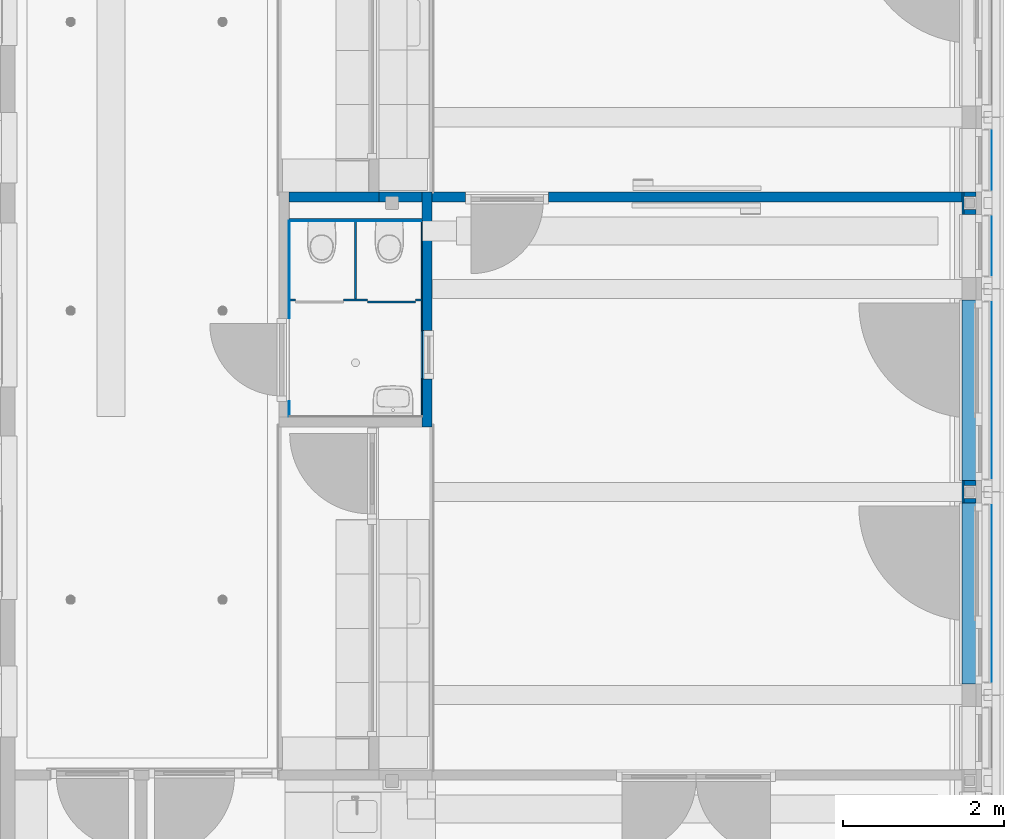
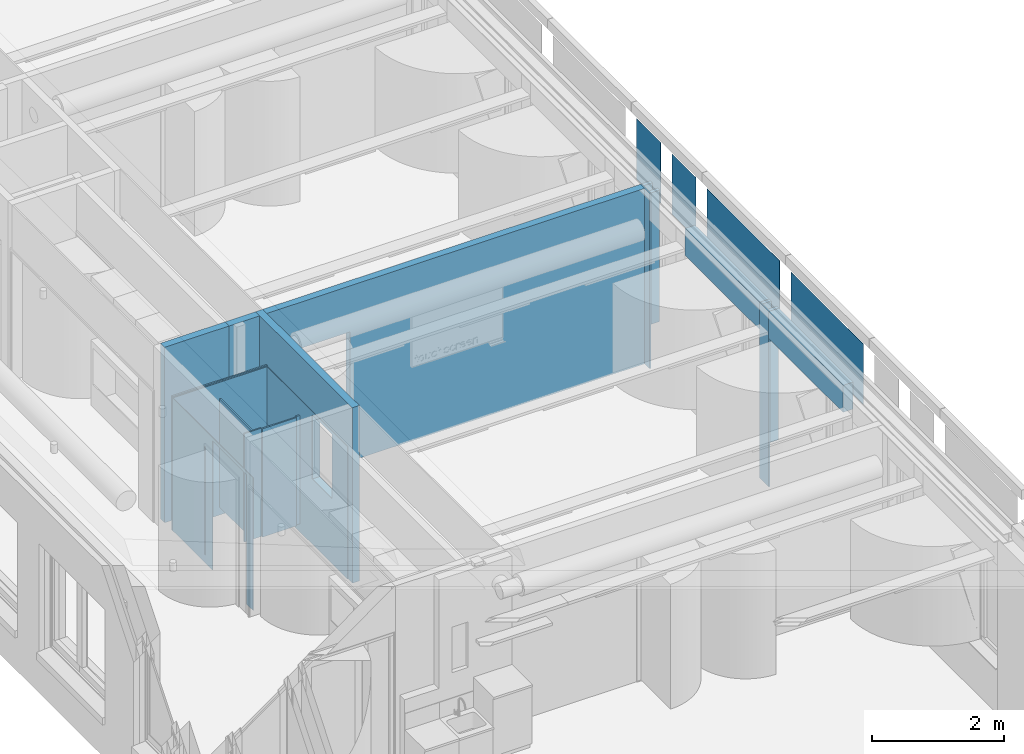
# One storey, part 35 of 128: 25 walls, 4 openings.
"""IFC2X3 building model written with IfcOpenShell, lengths in millimetres."""

from ifc_helpers import new_model, entity, si_unit, converted_unit, derived_unit, direction, frame, frame_2d, origin, origin_2d_with_axis, place, context, subcontext, project, spatial, rectangle, extrude, material, layer, layer_set, layer_usage, type_object, element, save


model = new_model("IFC2X3")

# Units and contexts
model_context = context("Model", 3, precision=0.01, world=origin(), true_north=direction((6.123031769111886e-17, 1.0)))
body_context = subcontext(model_context, "Body", "Model", "MODEL_VIEW")
ifc_project = project(units=[si_unit("LENGTHUNIT", "METRE", prefix="MILLI"), si_unit("AREAUNIT", "SQUARE_METRE"), si_unit("VOLUMEUNIT", "CUBIC_METRE"), converted_unit("PLANEANGLEUNIT", "DEGREE", entity("IfcRatioMeasure", 0.017453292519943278), si_unit("PLANEANGLEUNIT", "RADIAN"), dimensions=[0, 0, 0, 0, 0, 0, 0]), si_unit("MASSUNIT", "GRAM", prefix="KILO"), derived_unit("MASSDENSITYUNIT", [(si_unit("MASSUNIT", "GRAM", prefix="KILO"), 1), (si_unit("LENGTHUNIT", "METRE"), -3)]), derived_unit("IONCONCENTRATIONUNIT", [(si_unit("MASSUNIT", "GRAM", prefix="KILO"), 1), (si_unit("LENGTHUNIT", "METRE"), -3)]), derived_unit("MOMENTOFINERTIAUNIT", [(si_unit("LENGTHUNIT", "METRE"), 4)]), si_unit("TIMEUNIT", "SECOND"), si_unit("FREQUENCYUNIT", "HERTZ"), si_unit("THERMODYNAMICTEMPERATUREUNIT", "DEGREE_CELSIUS"), derived_unit("THERMALTRANSMITTANCEUNIT", [(si_unit("MASSUNIT", "GRAM", prefix="KILO"), 1), (si_unit("THERMODYNAMICTEMPERATUREUNIT", "KELVIN"), -1), (si_unit("TIMEUNIT", "SECOND"), -3)]), derived_unit("THERMALCONDUCTANCEUNIT", [(si_unit("MASSUNIT", "GRAM", prefix="KILO"), 1), (si_unit("THERMODYNAMICTEMPERATUREUNIT", "KELVIN"), -1), (si_unit("TIMEUNIT", "SECOND"), -3), (si_unit("LENGTHUNIT", "METRE"), 1)]), derived_unit("VOLUMETRICFLOWRATEUNIT", [(si_unit("LENGTHUNIT", "METRE"), 3), (si_unit("TIMEUNIT", "SECOND"), -1)]), derived_unit("MASSFLOWRATEUNIT", [(si_unit("MASSUNIT", "GRAM", prefix="KILO"), 1), (si_unit("TIMEUNIT", "SECOND"), -1)]), derived_unit("ROTATIONALFREQUENCYUNIT", [(si_unit("TIMEUNIT", "SECOND"), -1)]), si_unit("ELECTRICCURRENTUNIT", "AMPERE"), si_unit("ELECTRICVOLTAGEUNIT", "VOLT"), si_unit("POWERUNIT", "WATT"), si_unit("FORCEUNIT", "NEWTON", prefix="KILO"), si_unit("ILLUMINANCEUNIT", "LUX"), si_unit("LUMINOUSFLUXUNIT", "LUMEN"), si_unit("LUMINOUSINTENSITYUNIT", "CANDELA"), derived_unit("USERDEFINED", [(si_unit("MASSUNIT", "GRAM", prefix="KILO"), -1), (si_unit("LENGTHUNIT", "METRE"), -2), (si_unit("TIMEUNIT", "SECOND"), 3), (si_unit("LUMINOUSFLUXUNIT", "LUMEN"), 1)]), derived_unit("USERDEFINED", [(si_unit("MASSUNIT", "GRAM", prefix="KILO"), 1), (si_unit("TIMEUNIT", "SECOND"), -3), (si_unit("LENGTHUNIT", "METRE"), 3), (si_unit("ELECTRICCURRENTUNIT", "AMPERE"), -2)]), derived_unit("SOUNDPOWERUNIT", [(si_unit("MASSUNIT", "GRAM", prefix="KILO"), 1), (si_unit("TIMEUNIT", "SECOND"), -3), (si_unit("LENGTHUNIT", "METRE"), 2)]), derived_unit("SOUNDPRESSUREUNIT", [(si_unit("MASSUNIT", "GRAM", prefix="KILO"), 1), (si_unit("LENGTHUNIT", "METRE"), -1), (si_unit("TIMEUNIT", "SECOND"), -2)]), derived_unit("LINEARVELOCITYUNIT", [(si_unit("LENGTHUNIT", "METRE"), 1), (si_unit("TIMEUNIT", "SECOND"), -1)]), si_unit("PRESSUREUNIT", "PASCAL"), derived_unit("USERDEFINED", [(si_unit("MASSUNIT", "GRAM", prefix="KILO"), 1), (si_unit("LENGTHUNIT", "METRE"), -2), (si_unit("TIMEUNIT", "SECOND"), -2)]), derived_unit("LINEARFORCEUNIT", [(si_unit("MASSUNIT", "GRAM", prefix="KILO"), 1), (si_unit("TIMEUNIT", "SECOND"), -2)]), derived_unit("PLANARFORCEUNIT", [(si_unit("MASSUNIT", "GRAM", prefix="KILO"), 1), (si_unit("LENGTHUNIT", "METRE"), -1), (si_unit("TIMEUNIT", "SECOND"), -2)]), derived_unit("SPECIFICHEATCAPACITYUNIT", [(si_unit("THERMODYNAMICTEMPERATUREUNIT", "KELVIN"), -1), (si_unit("LENGTHUNIT", "METRE"), 2), (si_unit("TIMEUNIT", "SECOND"), -2)]), derived_unit("HEATINGVALUEUNIT", [(si_unit("LENGTHUNIT", "METRE"), 2), (si_unit("TIMEUNIT", "SECOND"), -2)]), derived_unit("VAPORPERMEABILITYUNIT", [(si_unit("LENGTHUNIT", "METRE"), -1), (si_unit("TIMEUNIT", "SECOND"), 1)]), derived_unit("DYNAMICVISCOSITYUNIT", [(si_unit("MASSUNIT", "GRAM", prefix="KILO"), 1), (si_unit("TIMEUNIT", "SECOND"), -1), (si_unit("LENGTHUNIT", "METRE"), -1)]), derived_unit("THERMALEXPANSIONCOEFFICIENTUNIT", [(si_unit("THERMODYNAMICTEMPERATUREUNIT", "KELVIN"), -1)]), derived_unit("MODULUSOFELASTICITYUNIT", [(si_unit("MASSUNIT", "GRAM", prefix="KILO"), 1), (si_unit("LENGTHUNIT", "METRE"), -1), (si_unit("TIMEUNIT", "SECOND"), -2)]), derived_unit("ISOTHERMALMOISTURECAPACITYUNIT", [(si_unit("LENGTHUNIT", "METRE"), 3), (si_unit("MASSUNIT", "GRAM", prefix="KILO"), -1)]), derived_unit("MOISTUREDIFFUSIVITYUNIT", [(si_unit("TIMEUNIT", "SECOND"), -1), (si_unit("LENGTHUNIT", "METRE"), 2)])], contexts=[model_context])

# Site, building, storey
site_placement = place(None, frame((0.0, 300.0, 0.0)))
site = spatial("IfcSite", under=ifc_project, at=site_placement, Name="<Kadastrale nummers>", CompositionType="ELEMENT")
building_placement = place(site_placement, origin())
building = spatial("IfcBuilding", under=site, at=building_placement, CompositionType="ELEMENT")
storey_placement = place(building_placement, frame((0.0, 0.0, 3560.0000331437)))
storey = spatial("IfcBuildingStorey", under=building, at=storey_placement, Name="01 eerste verdieping", CompositionType="ELEMENT", Elevation=3560.0000331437)

# Wall, opening
ifc_material_1 = material(Name="ISR_Gips")
ifc_layer_1 = layer(ifc_material_1, 1.0)
ifc_material_2 = material(Name="ISR_Binnenwand")
ifc_layer_2 = layer(ifc_material_2, 123.0)
ifc_layer_3 = layer(ifc_material_1, 1.0)
ifc_layer_set_1 = layer_set([ifc_layer_1, ifc_layer_2, ifc_layer_3], Name="Basic Wall:22_DAT_binnenwand_125")
ifc_layer_usage_1 = layer_usage(ifc_layer_set_1, "AXIS2", "NEGATIVE", 62.50000000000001)
wall_type_1 = type_object("IfcWallType", Name="Basic Wall:22_DAT_binnenwand_125", PredefinedType="STANDARD", material=ifc_layer_set_1)
wall_1_placement = place(storey_placement, frame((41837.49999999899, 16634.998623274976, 90.00000187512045), z_axis=(0.0, 0.0, 1.0), x_axis=(0.0, -1.0, 0.0)))
wall_1 = element("IfcWallStandardCase", 1, at=wall_1_placement, inside=storey, type_object=wall_type_1, material=ifc_layer_usage_1, Name="Basic Wall:22_DAT_binnenwand_125", ObjectType="Basic Wall:22_DAT_binnenwand_125", context=body_context, shape_type="SweptSolid", body=[
    extrude(rectangle(XDim=2924.999999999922, YDim=125.00000000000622, at=frame_2d((1462.499999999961, 3.957723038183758e-12), x_axis=(-1.0, 0.0))), origin(), (0.0, 0.0, 1.0), 3240.0000290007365),
])
opening_1_placement = place(wall_1_placement, origin())
element("IfcOpeningElement", 2, at=opening_1_placement, cuts=wall_1, Name="Basic Wall:22_DAT_binnenwand_125", ObjectType="Opening", context=body_context, shape_type="SweptSolid", body=[
    extrude(rectangle(XDim=1190.0000000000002, YDim=599.9999999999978, at=frame_2d((0.0, 0.0), x_axis=(0.0, 1.0))), frame((2025.0, -214.89999999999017, 1795.0), z_axis=(0.0, 1.0, 0.0), x_axis=(-1.0, 0.0, 0.0)), (0.0, 0.0, 1.0), 429.79999999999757),
])

wall_2_placement = place(storey_placement, frame((41900.0, 16572.498623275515, 90.00000187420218)))
wall_2 = element("IfcWallStandardCase", 3, at=wall_2_placement, inside=storey, type_object=wall_type_1, material=ifc_layer_usage_1, Name="Basic Wall:22_DAT_binnenwand_125", ObjectType="Basic Wall:22_DAT_binnenwand_125", context=body_context, shape_type="SweptSolid", body=[
    extrude(rectangle(XDim=6600.000000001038, YDim=125.0000000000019, at=frame_2d((3300.000000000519, 0.0), x_axis=(-1.0, 0.0))), origin(), (0.0, 0.0, 1.0), 3240.0000290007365),
])
opening_2_placement = place(wall_2_placement, origin())
element("IfcOpeningElement", 4, at=opening_2_placement, cuts=wall_2, Name="Basic Wall:22_DAT_binnenwand_125", ObjectType="Opening", context=body_context, shape_type="SweptSolid", body=[
    extrude(rectangle(XDim=2390.0000000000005, YDim=1034.0000000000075, at=frame_2d((0.0, 0.0), x_axis=(0.0, 1.0))), frame((934.5000000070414, -214.89999999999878, 1195.0), z_axis=(0.0, 1.0, 0.0), x_axis=(-1.0, 0.0, 0.0)), (0.0, 0.0, 1.0), 429.7999999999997),
])

# Walls
ifc_layer_4 = layer(ifc_material_2, 113.0)
ifc_material_3 = material(Name="ISR_HPL Kleur hout")
ifc_layer_5 = layer(ifc_material_3, 12.0)
ifc_layer_set_2 = layer_set([ifc_layer_4, ifc_layer_5], Name="Basic Wall:22_DAT_binnenwand_125 HPL")
ifc_layer_usage_2 = layer_usage(ifc_layer_set_2, "AXIS2", "POSITIVE", -62.49999999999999)
wall_type_2 = type_object("IfcWallType", Name="Basic Wall:22_DAT_binnenwand_125 HPL", PredefinedType="STANDARD", material=ifc_layer_set_2)
wall_3_placement = place(storey_placement, frame((40115.0, 16572.49862327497, 90.00000187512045)))
element("IfcWallStandardCase", 5, at=wall_3_placement, inside=storey, type_object=wall_type_2, material=ifc_layer_usage_2, Name="Basic Wall:22_DAT_binnenwand_125 HPL", ObjectType="Basic Wall:22_DAT_binnenwand_125 HPL", context=body_context, shape_type="SweptSolid", body=[
    extrude(rectangle(XDim=1124.9999999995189, YDim=125.0000000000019, at=frame_2d((562.4999999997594, -2.4868995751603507e-13), x_axis=(-1.0, 0.0))), origin(), (0.0, 0.0, 1.0), 3240.0000290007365),
])
wall_4_placement = place(storey_placement, frame((41240.0, 16572.498623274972, 90.00000187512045)))
element("IfcWallStandardCase", 6, at=wall_4_placement, inside=storey, type_object=wall_type_2, material=ifc_layer_usage_2, Name="Basic Wall:22_DAT_binnenwand_125 HPL", ObjectType="Basic Wall:22_DAT_binnenwand_125 HPL", context=body_context, shape_type="SweptSolid", body=[
    extrude(rectangle(XDim=534.9999999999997, YDim=125.0000000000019, at=frame_2d((267.49999999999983, 4.476419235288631e-13), x_axis=(-1.0, 0.0))), origin(), (0.0, 0.0, 1.0), 3240.0000290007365),
])
ifc_layer_6 = layer(ifc_material_1, 1.0)
ifc_layer_7 = layer(ifc_material_2, 23.0)
ifc_layer_8 = layer(ifc_material_1, 1.0)
ifc_layer_set_3 = layer_set([ifc_layer_6, ifc_layer_7, ifc_layer_8], Name="Basic Wall:22_DAT_binnenwand_25")
ifc_layer_usage_3 = layer_usage(ifc_layer_set_3, "AXIS2", "NEGATIVE", 12.499999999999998)
wall_type_3 = type_object("IfcWallType", Name="Basic Wall:22_DAT_binnenwand_25", PredefinedType="STANDARD", material=ifc_layer_set_3)
wall_5_placement = place(storey_placement, frame((40115.0, 16292.498623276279, 90.0000018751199)))
element("IfcWallStandardCase", 7, at=wall_5_placement, inside=storey, type_object=wall_type_3, material=ifc_layer_usage_3, Name="Basic Wall:22_DAT_binnenwand_25", ObjectType="Basic Wall:22_DAT_binnenwand_25", context=body_context, shape_type="SweptSolid", body=[
    extrude(rectangle(XDim=1659.9999999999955, YDim=24.99999999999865, at=frame_2d((829.9999999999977, -8.171241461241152e-14), x_axis=(-1.0, 0.0))), origin(), (0.0, 0.0, 1.0), 2470.0000226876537),
])
ifc_layer_usage_4 = layer_usage(ifc_layer_set_3, "AXIS2", "POSITIVE", -12.499999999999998)
for number, where, z_axis, x_axis, name in (
    (8, (48512.49999999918, 16360.0, 90.00000187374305), (0.0, 0.0, 1.0), (0.0, 1.0, 0.0), "Basic Wall:22_DAT_binnenwand_25"),
    (9, (48512.49999999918, 12760.0, 90.00000187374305), (0.0, 0.0, 1.0), (0.0, 1.0, 0.0), "Basic Wall:22_DAT_binnenwand_25"),
):
    element("IfcWallStandardCase", number, at=place(storey_placement, frame(where, z_axis=z_axis, x_axis=x_axis)), inside=storey, type_object=wall_type_3, material=ifc_layer_usage_4, Name=name, ObjectType="Basic Wall:22_DAT_binnenwand_25", context=body_context, shape_type="SweptSolid", body=[
        extrude(rectangle(XDim=279.9999999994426, YDim=24.999999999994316, at=frame_2d((139.9999999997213, 7.194245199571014e-14), x_axis=(-1.0, 0.0))), origin(), (0.0, 0.0, 1.0), 3240.000000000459),
    ])
ifc_material_4 = material(Name="ISR_Kunststof_grijs")
ifc_layer_9 = layer(ifc_material_4, 25.0)
ifc_layer_set_4 = layer_set([ifc_layer_9], Name="Basic Wall:43_DAT_sanitairewand")
ifc_layer_usage_5 = layer_usage(ifc_layer_set_4, "AXIS2", "NEGATIVE", 12.500000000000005)
wall_type_4 = type_object("IfcWallType", Name="Basic Wall:43_DAT_sanitairewand", PredefinedType="STANDARD", material=ifc_layer_set_4)
wall_6_placement = place(storey_placement, frame((40945.0, 16279.998623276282, 240.00000187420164), z_axis=(0.0, 0.0, 1.0), x_axis=(0.0, -1.0, 0.0)))
element("IfcWallStandardCase", 10, at=wall_6_placement, inside=storey, type_object=wall_type_4, material=ifc_layer_usage_5, Name="Basic Wall:43_DAT_sanitairewand", ObjectType="Basic Wall:43_DAT_sanitairewand", context=body_context, shape_type="SweptSolid", body=[
    extrude(rectangle(XDim=975.0000000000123, YDim=24.999999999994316, at=frame_2d((487.50000000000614, 8.65085780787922e-13), x_axis=(-1.0, 0.0))), origin(), (0.0, 0.0, 1.0), 2000.0000000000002),
])
wall_7_placement = place(storey_placement, frame((41095.0, 15267.498623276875, 240.00000187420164)))
element("IfcWallStandardCase", 11, at=wall_7_placement, inside=storey, type_object=wall_type_4, material=ifc_layer_usage_5, Name="Basic Wall:43_DAT_sanitairewand", ObjectType="Basic Wall:43_DAT_sanitairewand", context=body_context, shape_type="SweptSolid", body=[
    extrude(rectangle(XDim=600.0000000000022, YDim=24.99999999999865, at=frame_2d((300.0000000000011, 4.1300296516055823e-13), x_axis=(-1.0, 0.0))), origin(), (0.0, 0.0, 1.0), 2000.0000000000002),
])
wall_8_placement = place(storey_placement, frame((40795.0, 15292.49862327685, 240.00000187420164)))
element("IfcWallStandardCase", 12, at=wall_8_placement, inside=storey, type_object=wall_type_4, material=ifc_layer_usage_5, Name="Basic Wall:43_DAT_sanitairewand", ObjectType="Basic Wall:43_DAT_sanitairewand", context=body_context, shape_type="SweptSolid", body=[
    extrude(rectangle(XDim=300.00000000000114, YDim=24.99999999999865, at=frame_2d((150.00000000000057, 2.0694557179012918e-13), x_axis=(-1.0, 0.0))), origin(), (0.0, 0.0, 1.0), 2000.0000000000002),
])
wall_9_placement = place(storey_placement, frame((41695.0, 15292.498623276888, 240.00000187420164)))
element("IfcWallStandardCase", 13, at=wall_9_placement, inside=storey, type_object=wall_type_4, material=ifc_layer_usage_5, Name="Basic Wall:43_DAT_sanitairewand", ObjectType="Basic Wall:43_DAT_sanitairewand", context=body_context, shape_type="SweptSolid", body=[
    extrude(rectangle(XDim=79.99999999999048, YDim=24.999999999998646, at=frame_2d((39.99999999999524, 0.0), x_axis=(-1.0, 0.0))), origin(), (0.0, 0.0, 1.0), 2000.0000000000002),
])
wall_10_placement = place(storey_placement, frame((40115.0, 15292.49862327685, 240.00000187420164)))
element("IfcWallStandardCase", 14, at=wall_10_placement, inside=storey, type_object=wall_type_4, material=ifc_layer_usage_5, Name="Basic Wall:43_DAT_sanitairewand", ObjectType="Basic Wall:43_DAT_sanitairewand", context=body_context, shape_type="SweptSolid", body=[
    extrude(rectangle(XDim=79.9999999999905, YDim=24.99999999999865, at=frame_2d((39.99999999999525, 3.4372504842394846e-13), x_axis=(-1.0, 0.0))), origin(), (0.0, 0.0, 1.0), 2000.0000000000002),
])
ifc_material_5 = material(Name="STAAL_RAL 7006")
ifc_layer_10 = layer(ifc_material_5, 2.0)
ifc_layer_set_5 = layer_set([ifc_layer_10], Name="Basic Wall:21_DAT_zetwerk_2")
ifc_layer_usage_6 = layer_usage(ifc_layer_set_5, "AXIS2", "NEGATIVE", 1.000000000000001)
wall_type_5 = type_object("IfcWallType", Name="Basic Wall:21_DAT_zetwerk_2", PredefinedType="STANDARD", material=ifc_layer_set_5)
for number, where, z_axis, x_axis, name in (
    (15, (48871.0, 15262.0, 2829.9999668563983), (0.0, 0.0, 1.0), (0.0, -1.0, 0.0), "Basic Wall:21_DAT_zetwerk_2"),
    (16, (48871.0, 12732.0, 2829.9999668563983), (0.0, 0.0, 1.0), (0.0, -1.0, 0.0), "Basic Wall:21_DAT_zetwerk_2"),
):
    element("IfcWallStandardCase", number, at=place(storey_placement, frame(where, z_axis=z_axis, x_axis=x_axis)), inside=storey, type_object=wall_type_5, material=ifc_layer_usage_6, Name=name, ObjectType="Basic Wall:21_DAT_zetwerk_2", context=body_context, shape_type="SweptSolid", body=[
        extrude(rectangle(XDim=2194.0000000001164, YDim=1.9999999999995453, at=frame_2d((1097.0000000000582, 1.3533618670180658e-12), x_axis=(-1.0, 0.0))), origin(), (0.0, 0.0, 1.0), 1120.0000000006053),
    ])
for number, where, z_axis, x_axis, name in (
    (17, (48871.0, 17402.0, 2829.9999668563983), (0.0, 0.0, 1.0), (0.0, -1.0, 0.0), "Basic Wall:21_DAT_zetwerk_2"),
    (18, (48871.0, 16332.0, 2829.9999668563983), (0.0, 0.0, 1.0), (0.0, -1.0, 0.0), "Basic Wall:21_DAT_zetwerk_2"),
):
    element("IfcWallStandardCase", number, at=place(storey_placement, frame(where, z_axis=z_axis, x_axis=x_axis)), inside=storey, type_object=wall_type_5, material=ifc_layer_usage_6, Name=name, ObjectType="Basic Wall:21_DAT_zetwerk_2", context=body_context, shape_type="SweptSolid", body=[
        extrude(rectangle(XDim=733.9999999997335, YDim=1.9999999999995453, at=frame_2d((366.99999999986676, 1.0186296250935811e-12), x_axis=(-1.0, 0.0))), origin(), (0.0, 0.0, 1.0), 1120.0000000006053),
    ])
ifc_layer_11 = layer(ifc_material_1, 12.5)
ifc_layer_12 = layer(ifc_material_1, 12.5)
ifc_material_6 = material(Name="ISR_Dak_isolatie(198)")
ifc_layer_13 = layer(ifc_material_6, 140.0)
ifc_material_7 = material(Name="ISR_Multiplex")
ifc_layer_14 = layer(ifc_material_7, 10.0)
ifc_layer_set_6 = layer_set([ifc_layer_11, ifc_layer_12, ifc_layer_13, ifc_layer_14], Name="Basic Wall:21_DAT_Hekwerk 175")
ifc_layer_usage_7 = layer_usage(ifc_layer_set_6, "AXIS2", "POSITIVE", -87.5)
wall_type_6 = type_object("IfcWallType", Name="Basic Wall:21_DAT_Hekwerk 175", PredefinedType="STANDARD", material=ifc_layer_set_6)
for number, where, z_axis, x_axis, name in (
    (19, (48587.50000000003, 12760.0, 2830.0), (0.0, 0.0, 1.0), (0.0, -1.0, 0.0), "Basic Wall:21_DAT_Hekwerk 175"),
    (20, (48587.50000000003, 15290.0, 2830.0), (0.0, 0.0, 1.0), (0.0, -1.0, 0.0), "Basic Wall:21_DAT_Hekwerk 175"),
):
    element("IfcWallStandardCase", number, at=place(storey_placement, frame(where, z_axis=z_axis, x_axis=x_axis)), inside=storey, type_object=wall_type_6, material=ifc_layer_usage_7, Name=name, ObjectType="Basic Wall:21_DAT_Hekwerk 175", context=body_context, shape_type="SweptSolid", body=[
        extrude(rectangle(XDim=2249.999999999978, YDim=174.99999999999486, at=frame_2d((1124.999999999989, 0.0), x_axis=(-1.0, 0.0))), origin(), (0.0, 0.0, 1.0), 500.00003087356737),
    ])

# Wall, opening
ifc_material_8 = material(Name="ISR_Tegels_grijs_150x150")
ifc_layer_15 = layer(ifc_material_8, 10.0)
ifc_layer_set_7 = layer_set([ifc_layer_15], Name="Basic Wall:43_DAT_Wandtegelwerk")
ifc_layer_usage_8 = layer_usage(ifc_layer_set_7, "AXIS2", "POSITIVE", -5.0)
wall_type_7 = type_object("IfcWallType", Name="Basic Wall:43_DAT_Wandtegelwerk", PredefinedType="STANDARD", material=ifc_layer_set_7)
wall_11_placement = place(storey_placement, frame((40120.0, 16269.998623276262, 90.00000187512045), z_axis=(0.0, 0.0, 1.0), x_axis=(0.0, -1.0, 0.0)))
wall_11 = element("IfcWallStandardCase", 21, at=wall_11_placement, inside=storey, type_object=wall_type_7, material=ifc_layer_usage_8, Name="Basic Wall:43_DAT_Wandtegelwerk", ObjectType="Basic Wall:43_DAT_Wandtegelwerk", context=body_context, shape_type="SweptSolid", body=[
    extrude(rectangle(XDim=2435.0000000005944, YDim=9.999999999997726, at=frame_2d((1217.5000000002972, 0.0), x_axis=(-1.0, 0.0))), origin(), (0.0, 0.0, 1.0), 2450.0000226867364),
])
opening_3_placement = place(wall_11_placement, origin())
element("IfcOpeningElement", 22, at=opening_3_placement, cuts=wall_11, Name="Basic Wall:43_DAT_Wandtegelwerk", ObjectType="Opening", context=body_context, shape_type="SweptSolid", body=[
    extrude(rectangle(XDim=2390.0000000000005, YDim=1034.000000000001, at=frame_2d((1.0800249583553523e-12, 0.0), x_axis=(0.0, 1.0))), frame((1724.0013767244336, -157.39999999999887, 1195.0), z_axis=(0.0, 1.0, 0.0), x_axis=(-1.0, 0.0, 0.0)), (0.0, 0.0, 1.0), 314.79999999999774),
])

ifc_layer_usage_9 = layer_usage(ifc_layer_set_7, "AXIS2", "NEGATIVE", 5.0)
wall_12_placement = place(storey_placement, frame((41770.0, 13844.998623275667, 90.00000187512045), z_axis=(0.0, 0.0, 1.0), x_axis=(0.0, 1.0, 0.0)))
wall_12 = element("IfcWallStandardCase", 23, at=wall_12_placement, inside=storey, type_object=wall_type_7, material=ifc_layer_usage_9, Name="Basic Wall:43_DAT_Wandtegelwerk", ObjectType="Basic Wall:43_DAT_Wandtegelwerk", context=body_context, shape_type="SweptSolid", body=[
    extrude(rectangle(XDim=2435.00000000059, YDim=9.999999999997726, at=frame_2d((1217.500000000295, 0.0), x_axis=(-1.0, 0.0))), origin(), (0.0, 0.0, 1.0), 2450.0000226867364),
])
opening_4_placement = place(wall_12_placement, origin())
element("IfcOpeningElement", 24, at=opening_4_placement, cuts=wall_12, Name="Basic Wall:43_DAT_Wandtegelwerk", ObjectType="Opening", context=body_context, shape_type="SweptSolid", body=[
    extrude(rectangle(XDim=1190.0000000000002, YDim=599.9999999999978, at=origin_2d_with_axis()), frame((765.0, -157.39999999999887, 1795.0), z_axis=(0.0, 1.0, 0.0), x_axis=(0.0, 0.0, 1.0)), (0.0, 0.0, 1.0), 314.79999999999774),
])

# Walls
wall_13_placement = place(storey_placement, frame((41765.0, 16274.998623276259, 90.00000187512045), z_axis=(0.0, 0.0, 1.0), x_axis=(-1.0, 0.0, 0.0)))
element("IfcWallStandardCase", 25, at=wall_13_placement, inside=storey, type_object=wall_type_7, material=ifc_layer_usage_9, Name="Basic Wall:43_DAT_Wandtegelwerk", ObjectType="Basic Wall:43_DAT_Wandtegelwerk", context=body_context, shape_type="SweptSolid", body=[
    extrude(rectangle(XDim=1649.9999999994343, YDim=10.000000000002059, at=frame_2d((824.9999999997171, 1.247890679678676e-13), x_axis=(-1.0, 0.0))), origin(), (0.0, 0.0, 1.0), 2450.0000226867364),
])
ifc_layer_16 = layer(ifc_material_6, 140.0)
ifc_layer_17 = layer(ifc_material_7, 10.0)
ifc_layer_set_8 = layer_set([ifc_layer_16, ifc_layer_17], Name="Basic Wall:21_DAT_Hekwerk 150")
ifc_layer_usage_10 = layer_usage(ifc_layer_set_8, "AXIS2", "NEGATIVE", 75.0)
wall_type_8 = type_object("IfcWallType", Name="Basic Wall:21_DAT_Hekwerk 150", PredefinedType="STANDARD", material=ifc_layer_set_8)
wall_14_placement = place(storey_placement, frame((48600.0, 16580.0, 900.0000018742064), z_axis=(0.0, 0.0, 1.0), x_axis=(0.0, 1.0, 0.0)))
element("IfcWallStandardCase", 26, at=wall_14_placement, inside=storey, type_object=wall_type_8, material=ifc_layer_usage_10, Name="Basic Wall:21_DAT_Hekwerk 150", ObjectType="Basic Wall:21_DAT_Hekwerk 150", context=body_context, shape_type="SweptSolid", body=[
    extrude(rectangle(XDim=60.00000000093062, YDim=150.00000000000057, at=frame_2d((30.00000000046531, -1.8687273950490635e-12), x_axis=(-1.0, 0.0))), origin(), (0.0, 0.0, 1.0), 2429.9999999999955),
])
ifc_layer_usage_11 = layer_usage(ifc_layer_set_8, "AXIS2", "POSITIVE", -75.0)
wall_15_placement = place(storey_placement, frame((48600.0, 16420.0, 900.0000018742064), z_axis=(0.0, 0.0, 1.0), x_axis=(0.0, -1.0, 0.0)))
element("IfcWallStandardCase", 27, at=wall_15_placement, inside=storey, type_object=wall_type_8, material=ifc_layer_usage_11, Name="Basic Wall:21_DAT_Hekwerk 150", ObjectType="Basic Wall:21_DAT_Hekwerk 150", context=body_context, shape_type="SweptSolid", body=[
    extrude(rectangle(XDim=59.999999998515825, YDim=150.00000000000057, at=frame_2d((29.999999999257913, 2.8279600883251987e-12), x_axis=(-1.0, 0.0))), origin(), (0.0, 0.0, 1.0), 2429.9999999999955),
])
wall_16_placement = place(storey_placement, frame((48600.0, 12980.0, 900.0000018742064), z_axis=(0.0, 0.0, 1.0), x_axis=(0.0, 1.0, 0.0)))
element("IfcWallStandardCase", 28, at=wall_16_placement, inside=storey, type_object=wall_type_8, material=ifc_layer_usage_10, Name="Basic Wall:21_DAT_Hekwerk 150", ObjectType="Basic Wall:21_DAT_Hekwerk 150", context=body_context, shape_type="SweptSolid", body=[
    extrude(rectangle(XDim=60.00000000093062, YDim=150.00000000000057, at=frame_2d((30.00000000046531, -1.8687273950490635e-12), x_axis=(-1.0, 0.0))), origin(), (0.0, 0.0, 1.0), 2429.9999999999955),
])
wall_17_placement = place(storey_placement, frame((48600.0, 12820.0, 900.0000018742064), z_axis=(0.0, 0.0, 1.0), x_axis=(0.0, -1.0, 0.0)))
element("IfcWallStandardCase", 29, at=wall_17_placement, inside=storey, type_object=wall_type_8, material=ifc_layer_usage_11, Name="Basic Wall:21_DAT_Hekwerk 150", ObjectType="Basic Wall:21_DAT_Hekwerk 150", context=body_context, shape_type="SweptSolid", body=[
    extrude(rectangle(XDim=59.999999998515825, YDim=150.00000000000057, at=frame_2d((29.999999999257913, 2.8279600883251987e-12), x_axis=(-1.0, 0.0))), origin(), (0.0, 0.0, 1.0), 2429.9999999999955),
])

save(model, "model.ifc")
